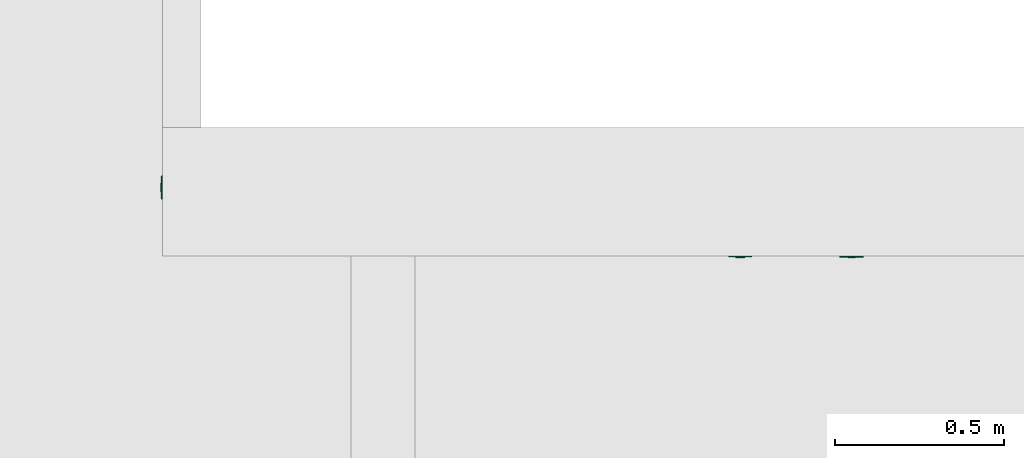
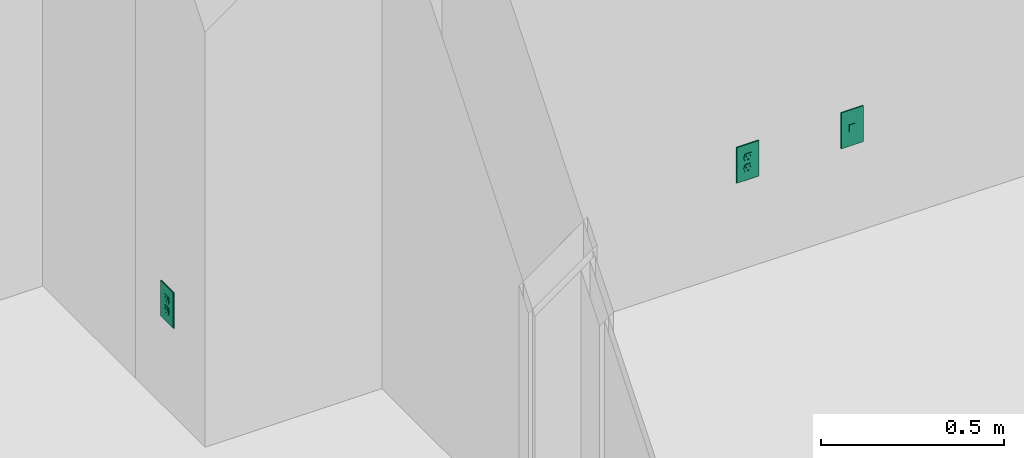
# One storey, part 12 of 48: 3 flow controllers.
"""IFC2X3 building model written with IfcOpenShell, lengths in inches."""

from ifc_helpers import new_model, entity, si_unit, converted_unit, derived_unit, money_unit, direction, frame, origin_with_axes, place, context, subcontext, project, spatial, faceted_brep, source, transform, mapped, type_object, element, save


model = new_model("IFC2X3")

# Units and contexts
model_context = context("Model", 3, precision=0.00039370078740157, world=origin_with_axes(), true_north=direction((0.0, 1.0)))
plan_context = context("Plan", 3, precision=0.00039370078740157, world=origin_with_axes(), true_north=direction((0.0, 1.0)))
body_context = subcontext(model_context, "Body", "Model", "MODEL_VIEW")
ifc_project = project(units=[converted_unit("LENGTHUNIT", "INCH", entity("IfcPositiveLengthMeasure", 0.0254), si_unit("LENGTHUNIT", "METRE"), dimensions=[1, 0, 0, 0, 0, 0, 0]), converted_unit("AREAUNIT", "SQUARE_FOOT", entity("IfcPositiveLengthMeasure", 0.09290304), si_unit("AREAUNIT", "SQUARE_METRE"), dimensions=[2, 0, 0, 0, 0, 0, 0]), si_unit("PLANEANGLEUNIT", "RADIAN"), si_unit("SOLIDANGLEUNIT", "STERADIAN"), money_unit("USD"), converted_unit("TIMEUNIT", "Year", entity("IfcTimeMeasure", 31557600.0), si_unit("TIMEUNIT", "SECOND"), dimensions=[0, 0, 1, 0, 0, 0, 0]), si_unit("MASSUNIT", "GRAM", prefix="KILO"), si_unit("THERMODYNAMICTEMPERATUREUNIT", "DEGREE_CELSIUS"), si_unit("LUMINOUSINTENSITYUNIT", "LUMEN"), si_unit("ENERGYUNIT", "JOULE", prefix="MEGA"), derived_unit("SPECIFICHEATCAPACITYUNIT", [(si_unit("ENERGYUNIT", "JOULE"), 1), (si_unit("MASSUNIT", "GRAM", prefix="KILO"), -1), (si_unit("THERMODYNAMICTEMPERATUREUNIT", "KELVIN"), -1)])], contexts=[model_context, plan_context])

# Site, building, storey
site_placement = place(None, origin_with_axes())
site = spatial("IfcSite", under=ifc_project, at=site_placement, Name="Site", CompositionType="ELEMENT")
building_placement = place(site_placement, origin_with_axes())
building = spatial("IfcBuilding", under=site, at=building_placement, Name="Building", CompositionType="ELEMENT")
storey_placement = place(building_placement, origin_with_axes())
storey = spatial("IfcBuildingStorey", under=building, at=storey_placement, Name="First Floor", CompositionType="ELEMENT", Elevation=0.0)

# Flow controllers
switching_device_type = type_object("IfcSwitchingDeviceType", Name="Outlet 1 US", PredefinedType="NOTDEFINED")
shared_shape_1 = source(origin_with_axes(), body_context, "Body", "Brep", [
    faceted_brep([(0.39370078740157, -0.03444881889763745, -1.18110236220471), (0.5436477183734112, -0.03444881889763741, -0.7086614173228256), (0.5436477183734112, -0.2165354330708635, -0.7086614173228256), (0.39370078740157, -0.2165354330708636, -1.18110236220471), (-0.3937007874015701, -0.03444881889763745, -1.181102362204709), (-0.543647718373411, -0.03444881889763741, -0.7086614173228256), (-0.39370078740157, -0.03444881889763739, -0.2362204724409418), (0.3937007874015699, -0.03444881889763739, -0.2362204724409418), (-0.196850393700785, -0.03444881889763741, -0.7086614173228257), (-0.196850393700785, -0.0344488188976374, -0.4724409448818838), (-0.275590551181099, -0.0344488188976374, -0.4724409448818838), (-0.275590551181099, -0.03444881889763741, -0.7086614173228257), (0.196850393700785, -0.03444881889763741, -0.7086614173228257), (0.275590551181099, -0.03444881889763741, -0.7086614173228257), (0.275590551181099, -0.0344488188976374, -0.4724409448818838), (0.196850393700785, -0.0344488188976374, -0.4724409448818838), (-0.078740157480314, -0.03444881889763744, -1.102362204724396), (0.078740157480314, -0.03444881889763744, -1.102362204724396), (0.078740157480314, -0.03444881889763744, -1.023622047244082), (0.06819097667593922, -0.03444881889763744, -0.9842519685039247), (0.03937007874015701, -0.03444881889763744, -0.9554310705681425), (0.0, -0.03444881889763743, -0.9448818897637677), (-0.03937007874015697, -0.03444881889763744, -0.9554310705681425), (-0.06819097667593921, -0.03444881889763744, -0.9842519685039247), (-0.078740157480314, -0.03444881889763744, -1.023622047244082), (0.3937007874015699, -0.2165354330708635, -0.2362204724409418), (-0.39370078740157, -0.2165354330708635, -0.2362204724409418), (-0.543647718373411, -0.2165354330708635, -0.7086614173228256), (-0.3937007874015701, -0.2165354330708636, -1.181102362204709), (-0.196850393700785, -0.2165354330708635, -0.7086614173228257), (-0.275590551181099, -0.2165354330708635, -0.7086614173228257), (-0.275590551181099, -0.2165354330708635, -0.4724409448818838), (-0.196850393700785, -0.2165354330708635, -0.4724409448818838), (0.196850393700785, -0.2165354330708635, -0.7086614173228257), (0.196850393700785, -0.2165354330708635, -0.4724409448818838), (0.275590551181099, -0.2165354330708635, -0.4724409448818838), (0.275590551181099, -0.2165354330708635, -0.7086614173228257), (-0.078740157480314, -0.2165354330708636, -1.102362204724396), (-0.078740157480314, -0.2165354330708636, -1.023622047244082), (-0.06819097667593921, -0.2165354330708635, -0.9842519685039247), (-0.03937007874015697, -0.2165354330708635, -0.9554310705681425), (0.0, -0.2165354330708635, -0.9448818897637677), (0.03937007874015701, -0.2165354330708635, -0.9554310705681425), (0.06819097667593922, -0.2165354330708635, -0.9842519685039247), (0.078740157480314, -0.2165354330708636, -1.023622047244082), (0.078740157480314, -0.2165354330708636, -1.102362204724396)], [[[0, 1, 2, 3]], [[0, 4, 5, 6, 7, 1], [8, 9, 10, 11], [12, 13, 14, 15], [16, 17, 18, 19, 20, 21, 22, 23, 24]], [[1, 7, 25, 2]], [[3, 2, 25, 26, 27, 28], [29, 30, 31, 32], [33, 34, 35, 36], [37, 38, 39, 40, 41, 42, 43, 44, 45]], [[4, 0, 3, 28]], [[5, 4, 28, 27]], [[6, 5, 27, 26]], [[7, 6, 26, 25]], [[9, 8, 29, 32]], [[10, 9, 32, 31]], [[11, 10, 31, 30]], [[8, 11, 30, 29]], [[13, 12, 33, 36]], [[14, 13, 36, 35]], [[15, 14, 35, 34]], [[12, 15, 34, 33]], [[17, 16, 37, 45]], [[18, 17, 45, 44]], [[19, 18, 44, 43]], [[20, 19, 43, 42]], [[21, 20, 42, 41]], [[22, 21, 41, 40]], [[23, 22, 40, 39]], [[24, 23, 39, 38]], [[16, 24, 38, 37]]]),
    faceted_brep([(0.39370078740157, -0.03444881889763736, 0.2362204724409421), (0.5436477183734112, -0.03444881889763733, 0.7086614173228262), (0.5436477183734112, -0.2165354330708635, 0.7086614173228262), (0.39370078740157, -0.2165354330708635, 0.2362204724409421), (-0.3937007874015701, -0.03444881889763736, 0.2362204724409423), (-0.543647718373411, -0.03444881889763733, 0.7086614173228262), (-0.39370078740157, -0.0344488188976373, 1.18110236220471), (0.3937007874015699, -0.0344488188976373, 1.18110236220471), (-0.196850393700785, -0.03444881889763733, 0.7086614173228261), (-0.196850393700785, -0.03444881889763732, 0.944881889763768), (-0.275590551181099, -0.03444881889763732, 0.944881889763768), (-0.275590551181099, -0.03444881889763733, 0.7086614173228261), (0.196850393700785, -0.03444881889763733, 0.7086614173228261), (0.275590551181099, -0.03444881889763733, 0.7086614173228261), (0.275590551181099, -0.03444881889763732, 0.944881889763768), (0.196850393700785, -0.03444881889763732, 0.944881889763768), (-0.078740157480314, -0.03444881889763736, 0.3149606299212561), (0.078740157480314, -0.03444881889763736, 0.3149606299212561), (0.078740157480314, -0.03444881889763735, 0.3937007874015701), (0.06819097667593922, -0.03444881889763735, 0.4330708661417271), (0.03937007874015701, -0.03444881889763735, 0.4618917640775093), (0.0, -0.03444881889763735, 0.472440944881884), (-0.03937007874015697, -0.03444881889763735, 0.4618917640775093), (-0.06819097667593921, -0.03444881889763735, 0.4330708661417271), (-0.078740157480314, -0.03444881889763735, 0.3937007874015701), (0.3937007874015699, -0.2165354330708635, 1.18110236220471), (-0.39370078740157, -0.2165354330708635, 1.18110236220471), (-0.543647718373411, -0.2165354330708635, 0.7086614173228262), (-0.3937007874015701, -0.2165354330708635, 0.2362204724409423), (-0.196850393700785, -0.2165354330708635, 0.7086614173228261), (-0.275590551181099, -0.2165354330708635, 0.7086614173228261), (-0.275590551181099, -0.2165354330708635, 0.944881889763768), (-0.196850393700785, -0.2165354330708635, 0.944881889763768), (0.196850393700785, -0.2165354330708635, 0.7086614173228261), (0.196850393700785, -0.2165354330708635, 0.944881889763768), (0.275590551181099, -0.2165354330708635, 0.944881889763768), (0.275590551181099, -0.2165354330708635, 0.7086614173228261), (-0.078740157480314, -0.2165354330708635, 0.3149606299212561), (-0.078740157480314, -0.2165354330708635, 0.3937007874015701), (-0.06819097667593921, -0.2165354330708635, 0.4330708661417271), (-0.03937007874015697, -0.2165354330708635, 0.4618917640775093), (0.0, -0.2165354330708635, 0.472440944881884), (0.03937007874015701, -0.2165354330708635, 0.4618917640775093), (0.06819097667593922, -0.2165354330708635, 0.4330708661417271), (0.078740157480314, -0.2165354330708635, 0.3937007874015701), (0.078740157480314, -0.2165354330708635, 0.3149606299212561)], [[[0, 1, 2, 3]], [[0, 4, 5, 6, 7, 1], [8, 9, 10, 11], [12, 13, 14, 15], [16, 17, 18, 19, 20, 21, 22, 23, 24]], [[1, 7, 25, 2]], [[3, 2, 25, 26, 27, 28], [29, 30, 31, 32], [33, 34, 35, 36], [37, 38, 39, 40, 41, 42, 43, 44, 45]], [[4, 0, 3, 28]], [[5, 4, 28, 27]], [[6, 5, 27, 26]], [[7, 6, 26, 25]], [[9, 8, 29, 32]], [[10, 9, 32, 31]], [[11, 10, 31, 30]], [[8, 11, 30, 29]], [[13, 12, 33, 36]], [[14, 13, 36, 35]], [[15, 14, 35, 34]], [[12, 15, 34, 33]], [[17, 16, 37, 45]], [[18, 17, 45, 44]], [[19, 18, 44, 43]], [[20, 19, 43, 42]], [[21, 20, 42, 41]], [[22, 21, 41, 40]], [[23, 22, 40, 39]], [[24, 23, 39, 38]], [[16, 24, 38, 37]]]),
    faceted_brep([(-1.343503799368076, -0.1377952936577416, -2.327755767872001), (1.343503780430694, -0.1377952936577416, -2.327755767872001), (1.343503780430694, -0.1377952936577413, 2.327755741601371), (-1.343503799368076, -0.1377952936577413, 2.327755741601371), (0.39370078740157, -0.1377952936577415, -1.18110236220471), (-0.3937007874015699, -0.1377952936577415, -1.181102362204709), (-0.5436477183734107, -0.1377952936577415, -0.7086614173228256), (-0.39370078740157, -0.1377952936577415, -0.2362204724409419), (0.3937007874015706, -0.1377952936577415, -0.2362204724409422), (0.5436477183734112, -0.1377952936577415, -0.7086614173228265), (-0.39370078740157, -0.1377952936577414, 1.18110236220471), (0.3937007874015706, -0.1377952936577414, 1.18110236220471), (0.5436477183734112, -0.1377952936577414, 0.7086614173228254), (0.39370078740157, -0.1377952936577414, 0.236220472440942), (-0.3937007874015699, -0.1377952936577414, 0.2362204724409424), (-0.5436477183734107, -0.1377952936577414, 0.7086614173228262), (-1.352419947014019, -0.1366214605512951, -2.336671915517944), (1.352419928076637, -0.1366214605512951, -2.336671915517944), (1.352419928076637, -0.1366214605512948, 2.336671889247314), (-1.352419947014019, -0.1366214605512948, 2.336671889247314), (0.39370078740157, -0.03444881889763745, -1.18110236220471), (-0.3937007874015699, -0.03444881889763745, -1.181102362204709), (-0.5436477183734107, -0.03444881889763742, -0.7086614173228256), (-0.39370078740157, -0.03444881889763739, -0.2362204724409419), (0.3937007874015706, -0.03444881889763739, -0.2362204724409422), (0.5436477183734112, -0.03444881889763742, -0.7086614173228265), (-0.39370078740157, -0.0344488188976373, 1.18110236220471), (0.3937007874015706, -0.0344488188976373, 1.18110236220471), (0.5436477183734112, -0.03444881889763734, 0.7086614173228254), (0.39370078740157, -0.03444881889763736, 0.236220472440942), (-0.3937007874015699, -0.03444881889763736, 0.2362204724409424), (-0.5436477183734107, -0.03444881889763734, 0.7086614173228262), (-1.36786294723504, -0.1277054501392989, -2.352114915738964), (1.367862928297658, -0.1277054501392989, -2.352114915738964), (1.367862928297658, -0.1277054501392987, 2.352114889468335), (-1.36786294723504, -0.1277054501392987, 2.352114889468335), (-1.376778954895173, -0.1122624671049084, -2.361030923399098), (1.376778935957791, -0.1122624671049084, -2.361030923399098), (1.376778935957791, -0.1122624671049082, 2.361030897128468), (-1.376778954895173, -0.1122624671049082, 2.361030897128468), (-1.377952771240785, -0.1033464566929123, -2.362204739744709), (1.377952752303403, -0.1033464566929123, -2.362204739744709), (1.377952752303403, -0.103346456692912, 2.36220471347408), (-1.377952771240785, -0.103346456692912, 2.36220471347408), (-1.377952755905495, 0.0, -2.36220472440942), (1.377952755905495, 0.0, -2.36220472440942), (1.377952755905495, 0.0, 2.36220472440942), (-1.377952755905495, 0.0, 2.36220472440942)], [[[0, 1, 2, 3], [4, 5, 6, 7, 8, 9], [10, 11, 12, 13, 14, 15]], [[1, 0, 16, 17]], [[2, 1, 17, 18]], [[3, 2, 18, 19]], [[0, 3, 19, 16]], [[4, 20, 21, 5]], [[5, 21, 22, 6]], [[6, 22, 23, 7]], [[7, 23, 24, 8]], [[8, 24, 25, 9]], [[9, 25, 20, 4]], [[11, 10, 26, 27]], [[12, 11, 27, 28]], [[13, 12, 28, 29]], [[14, 13, 29, 30]], [[15, 14, 30, 31]], [[10, 15, 31, 26]], [[17, 16, 32, 33]], [[18, 17, 33, 34]], [[19, 18, 34, 35]], [[16, 19, 35, 32]], [[22, 21, 20, 25, 24, 23]], [[28, 27, 26, 31, 30, 29]], [[33, 32, 36, 37]], [[34, 33, 37, 38]], [[35, 34, 38, 39]], [[32, 35, 39, 36]], [[37, 36, 40, 41]], [[38, 37, 41, 42]], [[39, 38, 42, 43]], [[36, 39, 43, 40]], [[41, 40, 44, 45]], [[42, 41, 45, 46]], [[43, 42, 46, 47]], [[40, 43, 47, 44]], [[46, 45, 44, 47]]]),
])
for number, where, z_axis, x_axis, name in (
    (1, (289.9999999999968, 322.4999999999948, 13.99999999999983), (0.0, 0.0, 1.0), (1.0, 0.0, 0.0), "FU - 029"),
    (2, (222.4999999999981, 330.4999999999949, 13.99999999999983), (0.0, 0.0, 1.0), (0.0, -1.0, 0.0), "FU - 029"),
):
    element("IfcFlowController", number, at=place(storey_placement, frame(where, z_axis=z_axis, x_axis=x_axis)), inside=storey, type_object=switching_device_type, Name=name, context=body_context, shape_type="MappedRepresentation", body=[
        mapped(shared_shape_1, transform((0.0, 0.0, 0.0))),
    ])
shared_shape_2 = source(origin_with_axes(), body_context, "Body", "Brep", [
    faceted_brep([(0.39370078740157, -0.0344488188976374, -0.472440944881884), (0.3937007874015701, -0.03444881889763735, 0.472440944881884), (0.3937007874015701, -0.2165354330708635, 0.472440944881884), (0.39370078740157, -0.2165354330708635, -0.472440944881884), (-0.3937007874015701, -0.0344488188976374, -0.4724409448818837), (-0.39370078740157, -0.03444881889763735, 0.472440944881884), (-0.39370078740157, -0.2165354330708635, 0.472440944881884), (-0.3937007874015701, -0.2165354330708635, -0.4724409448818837)], [[[0, 1, 2, 3]], [[0, 4, 5, 1]], [[1, 5, 6, 2]], [[3, 2, 6, 7]], [[4, 0, 3, 7]], [[5, 4, 7, 6]]]),
    faceted_brep([(1.377952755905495, -0.1377952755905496, -2.36220472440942), (1.377952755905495, -0.1377952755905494, 2.36220472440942), (-1.377952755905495, -0.1377952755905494, 2.36220472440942), (-1.377952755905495, -0.1377952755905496, -2.36220472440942), (-0.3937007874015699, -0.1377952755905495, -0.4724409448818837), (-0.39370078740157, -0.1377952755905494, 0.4724409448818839), (0.3937007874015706, -0.1377952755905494, 0.4724409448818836), (0.39370078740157, -0.1377952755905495, -0.472440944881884), (1.377952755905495, 0.0, 2.36220472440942), (1.377952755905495, 0.0, -2.36220472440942), (-1.377952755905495, 0.0, 2.36220472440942), (-1.377952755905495, 0.0, -2.36220472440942), (-0.3937007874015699, -0.0344488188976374, -0.4724409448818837), (-0.39370078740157, -0.03444881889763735, 0.4724409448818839), (0.3937007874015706, -0.03444881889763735, 0.4724409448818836), (0.39370078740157, -0.0344488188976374, -0.472440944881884)], [[[0, 1, 2, 3], [4, 5, 6, 7]], [[8, 1, 0, 9]], [[10, 2, 1, 8]], [[11, 3, 2, 10]], [[9, 0, 3, 11]], [[5, 4, 12, 13]], [[6, 5, 13, 14]], [[7, 6, 14, 15]], [[4, 7, 15, 12]], [[10, 8, 9, 11]], [[14, 13, 12, 15]]]),
])
flow_controller_placement = place(storey_placement, frame((302.9999999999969, 322.4999999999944, 13.99999999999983), z_axis=(0.0, 0.0, 1.0), x_axis=(1.0, 0.0, 0.0)))
element("IfcFlowController", 3, at=flow_controller_placement, inside=storey, type_object=switching_device_type, Name="OBJ-05", context=body_context, shape_type="MappedRepresentation", body=[
    mapped(shared_shape_2, transform((0.0, 0.0, 0.0))),
])

save(model, "model.ifc")
